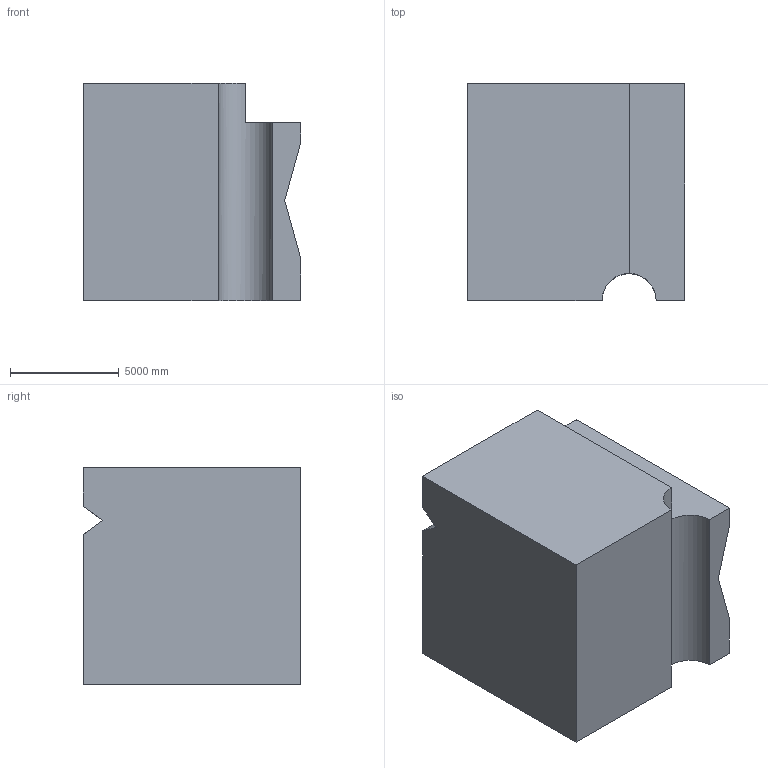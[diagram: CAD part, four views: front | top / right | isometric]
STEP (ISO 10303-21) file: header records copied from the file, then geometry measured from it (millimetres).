
FILE_DESCRIPTION (( 'STEP AP203' ), '1' );
FILE_NAME ('402.STEP', '2022-07-29T11:08:23', ( 'user' ), ( '' ), 'SwSTEP 2.0', 'SolidWorks 2021', '' );
FILE_SCHEMA (( 'CONFIG_CONTROL_DESIGN' ));
Length unit declared in the file: centimetre
Products named in the file (1): 402
Bounding box: 10000 x 10000 x 10000 mm (x, y, z)
Volume: 901858819429.7 mm3; surface area: 598090267.7 mm2
Topology: 1 solids, 1 shells, 18 faces, 48 edges, 32 vertices
Faces by surface type: plane 17, cylinder 1
Entity records: 632 total; most frequent: CARTESIAN_POINT 99, ORIENTED_EDGE 96, DIRECTION 89, EDGE_CURVE 48, VECTOR 45, LINE 45, VERTEX_POINT 32, AXIS2_PLACEMENT_3D 22
